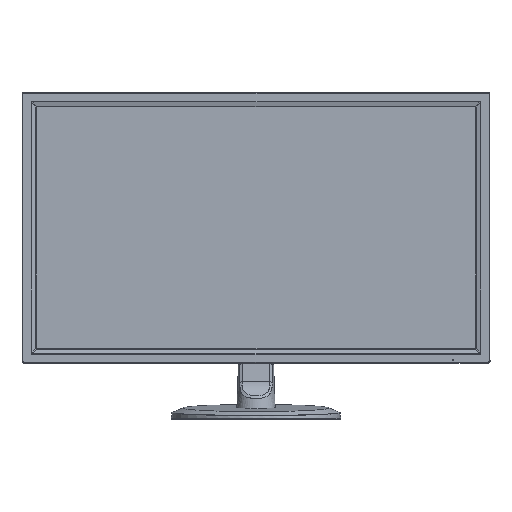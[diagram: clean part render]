
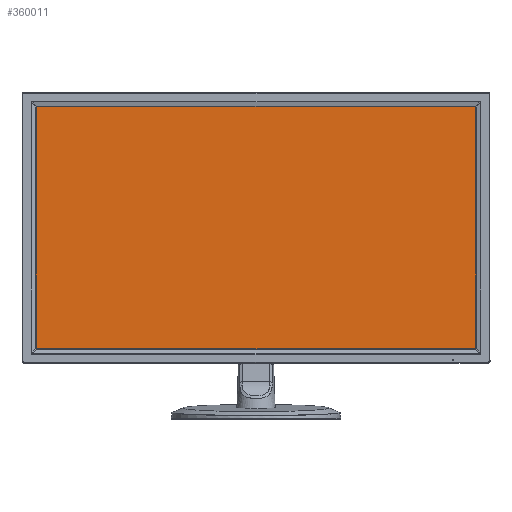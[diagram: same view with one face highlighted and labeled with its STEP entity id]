
A CAD part, top view. The second image highlights one B-rep face of the part: STEP entity #360011.
In plain terms, the highlighted planar face has unit normal (0, 0, 1).
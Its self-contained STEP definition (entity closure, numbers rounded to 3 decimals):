
#743 = VECTOR ( 'NONE', #270065, 1000. ) ;
#4536 = VERTEX_POINT ( 'NONE', #21676 ) ;
#8614 = CARTESIAN_POINT ( 'NONE',  ( 310.528, -171.64, 1.72 ) ) ;
#9851 = CARTESIAN_POINT ( 'NONE',  ( 311.381, -171.04, 1.72 ) ) ;
#12037 = CARTESIAN_POINT ( 'NONE',  ( -310.464, -171.64, 1.72 ) ) ;
#14004 = CARTESIAN_POINT ( 'NONE',  ( -310.726, 171.64, 1.72 ) ) ;
#21676 = CARTESIAN_POINT ( 'NONE',  ( 310.464, -171.64, 1.72 ) ) ;
#33890 = B_SPLINE_CURVE_WITH_KNOTS ( 'NONE', 3,
 ( #294437, #207497, #150320, #124167, #322972, #152752 ),
 .UNSPECIFIED., .F., .F.,
 ( 4, 2, 4 ),
 ( 0., 0.5, 1. ),
 .UNSPECIFIED. ) ;
#37293 = CARTESIAN_POINT ( 'NONE',  ( 310.621, -171.631, 1.72 ) ) ;
#38498 = CARTESIAN_POINT ( 'NONE',  ( 311.441, -170.89, 1.72 ) ) ;
#48570 = EDGE_CURVE ( 'NONE', #213575, #342056, #72402, .T. ) ;
#49382 = ORIENTED_EDGE ( 'NONE', *, *, #71828, .F. ) ;
#49921 = FACE_OUTER_BOUND ( 'NONE', #308356, .T. ) ;
#58997 = LINE ( 'NONE', #367483, #276812 ) ;
#62267 = CARTESIAN_POINT ( 'NONE',  ( -310.464, 171.64, 1.72 ) ) ;
#65837 = CARTESIAN_POINT ( 'NONE',  ( 310.773, -171.591, 1.72 ) ) ;
#67048 = CARTESIAN_POINT ( 'NONE',  ( 311.464, -170.64, 1.72 ) ) ;
#71223 = EDGE_CURVE ( 'NONE', #112651, #226329, #58997, .T. ) ;
#71790 = EDGE_CURVE ( 'NONE', #4536, #112651, #99858, .T. ) ;
#71828 = EDGE_CURVE ( 'NONE', #213575, #226329, #33890, .T. ) ;
#72393 = CARTESIAN_POINT ( 'NONE',  ( -311.356, -171.162, 1.72 ) ) ;
#72402 = LINE ( 'NONE', #299355, #148023 ) ;
#75994 = CARTESIAN_POINT ( 'NONE',  ( -311.464, 170.64, 1.72 ) ) ;
#82825 = ORIENTED_EDGE ( 'NONE', *, *, #218608, .F. ) ;
#90956 = ORIENTED_EDGE ( 'NONE', *, *, #71223, .T. ) ;
#94386 = CARTESIAN_POINT ( 'NONE',  ( 310.816, -171.576, 1.72 ) ) ;
#99858 = B_SPLINE_CURVE_WITH_KNOTS ( 'NONE', 3,
 ( #349174, #8614, #37293, #236093, #65837, #264661, #94386, #293200, #122966, #321746, #151550, #350393, #180135, #9851, #208700, #38498, #237306, #67048 ),
 .UNSPECIFIED., .F., .F.,
 ( 4, 1, 1, 2, 2, 2, 1, 1, 2, 2, 4 ),
 ( 0., 0.125, 0.188, 0.219, 0.25, 0.5, 0.625, 0.688, 0.719, 0.75, 1. ),
 .UNSPECIFIED. ) ;
#100916 = CARTESIAN_POINT ( 'NONE',  ( -311.464, -170.64, 1.72 ) ) ;
#105835 = CARTESIAN_POINT ( 'NONE',  ( 0., 0., 1.72 ) ) ;
#106237 = CARTESIAN_POINT ( 'NONE',  ( 310.464, 171.64, 1.72 ) ) ;
#110828 = B_SPLINE_CURVE_WITH_KNOTS ( 'NONE', 3,
 ( #156886, #269992, #242631, #72393, #271184, #100916 ),
 .UNSPECIFIED., .F., .F.,
 ( 4, 2, 4 ),
 ( 0., 0.5, 1. ),
 .UNSPECIFIED. ) ;
#112651 = VERTEX_POINT ( 'NONE', #290063 ) ;
#114047 = DIRECTION ( 'NONE',  ( -1., 0., 0. ) ) ;
#122966 = CARTESIAN_POINT ( 'NONE',  ( 311.073, -171.445, 1.72 ) ) ;
#124167 = CARTESIAN_POINT ( 'NONE',  ( 311.356, 171.162, 1.72 ) ) ;
#124280 = CARTESIAN_POINT ( 'NONE',  ( -311.464, 180.838, 1.72 ) ) ;
#127100 = CARTESIAN_POINT ( 'NONE',  ( -311.356, 171.162, 1.72 ) ) ;
#132705 = VECTOR ( 'NONE', #265982, 1000. ) ;
#134395 = DIRECTION ( 'NONE',  ( 0., 0., -1. ) ) ;
#148023 = VECTOR ( 'NONE', #114047, 1000. ) ;
#150320 = CARTESIAN_POINT ( 'NONE',  ( 310.986, 171.532, 1.72 ) ) ;
#151550 = CARTESIAN_POINT ( 'NONE',  ( 311.285, -171.219, 1.72 ) ) ;
#152752 = CARTESIAN_POINT ( 'NONE',  ( 311.464, 170.64, 1.72 ) ) ;
#156446 = EDGE_CURVE ( 'NONE', #307790, #235222, #301711, .T. ) ;
#156886 = CARTESIAN_POINT ( 'NONE',  ( -310.464, -171.64, 1.72 ) ) ;
#180135 = CARTESIAN_POINT ( 'NONE',  ( 311.367, -171.071, 1.72 ) ) ;
#184292 = CARTESIAN_POINT ( 'NONE',  ( -310.986, 171.532, 1.72 ) ) ;
#185681 = CARTESIAN_POINT ( 'NONE',  ( -311.464, -170.64, 1.72 ) ) ;
#197238 = DIRECTION ( 'NONE',  ( 0., 1., 0. ) ) ;
#207497 = CARTESIAN_POINT ( 'NONE',  ( 310.726, 171.64, 1.72 ) ) ;
#208700 = CARTESIAN_POINT ( 'NONE',  ( 311.388, -171.023, 1.72 ) ) ;
#212866 = CARTESIAN_POINT ( 'NONE',  ( -310.464, 171.64, 1.72 ) ) ;
#213575 = VERTEX_POINT ( 'NONE', #106237 ) ;
#218608 = EDGE_CURVE ( 'NONE', #307790, #342056, #348643, .T. ) ;
#226329 = VERTEX_POINT ( 'NONE', #246654 ) ;
#235222 = VERTEX_POINT ( 'NONE', #185681 ) ;
#236093 = CARTESIAN_POINT ( 'NONE',  ( 310.728, -171.606, 1.72 ) ) ;
#237306 = CARTESIAN_POINT ( 'NONE',  ( 311.464, -170.767, 1.72 ) ) ;
#241481 = CARTESIAN_POINT ( 'NONE',  ( -320.662, -171.64, 1.72 ) ) ;
#242631 = CARTESIAN_POINT ( 'NONE',  ( -310.986, -171.532, 1.72 ) ) ;
#246654 = CARTESIAN_POINT ( 'NONE',  ( 311.464, 170.64, 1.72 ) ) ;
#254339 = LINE ( 'NONE', #241481, #743 ) ;
#254887 = ORIENTED_EDGE ( 'NONE', *, *, #48570, .T. ) ;
#264661 = CARTESIAN_POINT ( 'NONE',  ( 310.803, -171.581, 1.72 ) ) ;
#265982 = DIRECTION ( 'NONE',  ( 0., -1., 0. ) ) ;
#267878 = AXIS2_PLACEMENT_3D ( 'NONE', #105835, #134395, #333213 ) ;
#269992 = CARTESIAN_POINT ( 'NONE',  ( -310.726, -171.64, 1.72 ) ) ;
#270065 = DIRECTION ( 'NONE',  ( 1., 0., 0. ) ) ;
#271184 = CARTESIAN_POINT ( 'NONE',  ( -311.464, -170.902, 1.72 ) ) ;
#276081 = PLANE ( 'NONE',  #267878 ) ;
#276812 = VECTOR ( 'NONE', #197238, 1000. ) ;
#290063 = CARTESIAN_POINT ( 'NONE',  ( 311.464, -170.64, 1.72 ) ) ;
#293200 = CARTESIAN_POINT ( 'NONE',  ( 310.961, -171.519, 1.72 ) ) ;
#294437 = CARTESIAN_POINT ( 'NONE',  ( 310.464, 171.64, 1.72 ) ) ;
#299355 = CARTESIAN_POINT ( 'NONE',  ( 320.662, 171.64, 1.72 ) ) ;
#301711 = LINE ( 'NONE', #124280, #132705 ) ;
#307790 = VERTEX_POINT ( 'NONE', #75994 ) ;
#308356 = EDGE_LOOP ( 'NONE', ( #49382, #254887, #82825, #337919, #314980, #341121, #310363, #90956 ) ) ;
#310363 = ORIENTED_EDGE ( 'NONE', *, *, #71790, .T. ) ;
#314980 = ORIENTED_EDGE ( 'NONE', *, *, #333450, .F. ) ;
#321746 = CARTESIAN_POINT ( 'NONE',  ( 311.22, -171.298, 1.72 ) ) ;
#322972 = CARTESIAN_POINT ( 'NONE',  ( 311.464, 170.902, 1.72 ) ) ;
#325892 = CARTESIAN_POINT ( 'NONE',  ( -311.464, 170.902, 1.72 ) ) ;
#332217 = VERTEX_POINT ( 'NONE', #12037 ) ;
#332894 = EDGE_CURVE ( 'NONE', #332217, #4536, #254339, .T. ) ;
#333213 = DIRECTION ( 'NONE',  ( -1., 0., 0. ) ) ;
#333450 = EDGE_CURVE ( 'NONE', #332217, #235222, #110828, .T. ) ;
#337919 = ORIENTED_EDGE ( 'NONE', *, *, #156446, .T. ) ;
#341121 = ORIENTED_EDGE ( 'NONE', *, *, #332894, .T. ) ;
#342056 = VERTEX_POINT ( 'NONE', #62267 ) ;
#348643 = B_SPLINE_CURVE_WITH_KNOTS ( 'NONE', 3,
 ( #354517, #325892, #127100, #184292, #14004, #212866 ),
 .UNSPECIFIED., .F., .F.,
 ( 4, 2, 4 ),
 ( 0., 0.5, 1. ),
 .UNSPECIFIED. ) ;
#349174 = CARTESIAN_POINT ( 'NONE',  ( 310.464, -171.64, 1.72 ) ) ;
#350393 = CARTESIAN_POINT ( 'NONE',  ( 311.344, -171.117, 1.72 ) ) ;
#354517 = CARTESIAN_POINT ( 'NONE',  ( -311.464, 170.64, 1.72 ) ) ;
#360011 = ADVANCED_FACE ( 'NONE', ( #49921 ), #276081, .F. ) ;
#367483 = CARTESIAN_POINT ( 'NONE',  ( 311.464, -180.838, 1.72 ) ) ;
